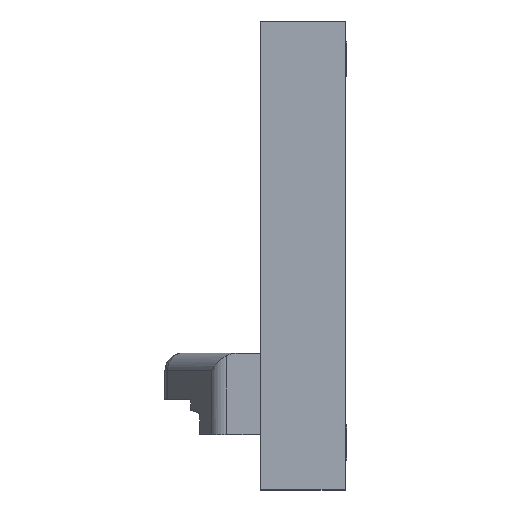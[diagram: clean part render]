
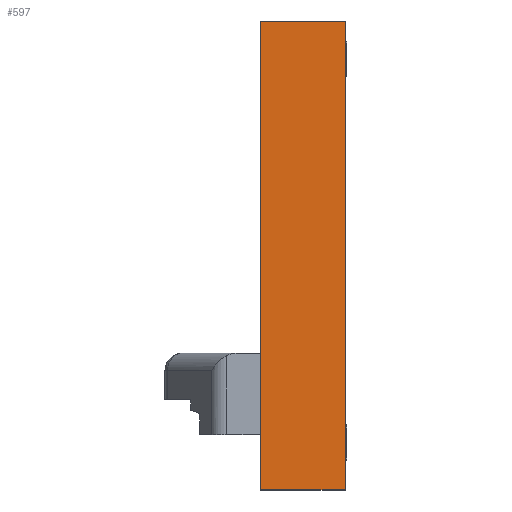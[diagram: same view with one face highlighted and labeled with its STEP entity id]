
A CAD part, left-side view. The second image highlights one B-rep face of the part: STEP entity #597.
In plain terms, the highlighted planar face has unit normal (-1, 0, 0).
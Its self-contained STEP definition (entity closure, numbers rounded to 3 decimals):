
#258 = EDGE_CURVE ( 'NONE', #1039, #1014, #2136, .T. ) ;
#375 = EDGE_CURVE ( 'NONE', #907, #965, #2786, .T. ) ;
#597 = ADVANCED_FACE ( 'NONE', ( #3587 ), #3588, .F. ) ;
#613 = EDGE_CURVE ( 'NONE', #1014, #907, #3646, .T. ) ;
#614 = EDGE_CURVE ( 'NONE', #1039, #965, #3649, .T. ) ;
#648 = VECTOR ( 'NONE', #2138, 1000. ) ;
#696 = ORIENTED_EDGE ( 'NONE', *, *, #258, .F. ) ;
#697 = ORIENTED_EDGE ( 'NONE', *, *, #614, .T. ) ;
#698 = ORIENTED_EDGE ( 'NONE', *, *, #375, .F. ) ;
#699 = ORIENTED_EDGE ( 'NONE', *, *, #613, .F. ) ;
#907 = VERTEX_POINT ( 'NONE', #3979 ) ;
#965 = VERTEX_POINT ( 'NONE', #4037 ) ;
#1014 = VERTEX_POINT ( 'NONE', #4086 ) ;
#1039 = VERTEX_POINT ( 'NONE', #4111 ) ;
#1634 = EDGE_LOOP ( 'NONE', ( #696, #697, #698, #699 ) ) ;
#2136 = LINE ( 'NONE', #2137, #648 ) ;
#2137 = CARTESIAN_POINT ( 'NONE',  ( -1.75, 0.495, -0.1 ) ) ;
#2138 = DIRECTION ( 'NONE',  ( 0., 0., 1. ) ) ;
#2519 = VECTOR ( 'NONE', #2788, 1000. ) ;
#2786 = LINE ( 'NONE', #2787, #2519 ) ;
#2787 = CARTESIAN_POINT ( 'NONE',  ( -1.75, 0.005, 2.6 ) ) ;
#2788 = DIRECTION ( 'NONE',  ( 0., 0., -1. ) ) ;
#3579 = CARTESIAN_POINT ( 'NONE',  ( -1.75, 0.01, 2.3 ) ) ;
#3587 = FACE_OUTER_BOUND ( 'NONE', #1634, .T. ) ;
#3588 = PLANE ( 'NONE',  #3829 ) ;
#3590 = DIRECTION ( 'NONE',  ( 1., 0., 0. ) ) ;
#3591 = DIRECTION ( 'NONE',  ( 0., 0., -1. ) ) ;
#3646 = LINE ( 'NONE', #3647, #3843 ) ;
#3647 = CARTESIAN_POINT ( 'NONE',  ( -1.75, 0.5, 2.6 ) ) ;
#3648 = DIRECTION ( 'NONE',  ( 0., -1., 0. ) ) ;
#3649 = LINE ( 'NONE', #3651, #3844 ) ;
#3651 = CARTESIAN_POINT ( 'NONE',  ( -1.75, 0.5, -0.1 ) ) ;
#3652 = DIRECTION ( 'NONE',  ( 0., -1., 0. ) ) ;
#3829 = AXIS2_PLACEMENT_3D ( 'NONE', #3579, #3590, #3591 ) ;
#3843 = VECTOR ( 'NONE', #3648, 1000. ) ;
#3844 = VECTOR ( 'NONE', #3652, 1000. ) ;
#3979 = CARTESIAN_POINT ( 'NONE',  ( -1.75, 0.005, 2.6 ) ) ;
#4037 = CARTESIAN_POINT ( 'NONE',  ( -1.75, 0.005, -0.1 ) ) ;
#4086 = CARTESIAN_POINT ( 'NONE',  ( -1.75, 0.495, 2.6 ) ) ;
#4111 = CARTESIAN_POINT ( 'NONE',  ( -1.75, 0.495, -0.1 ) ) ;
